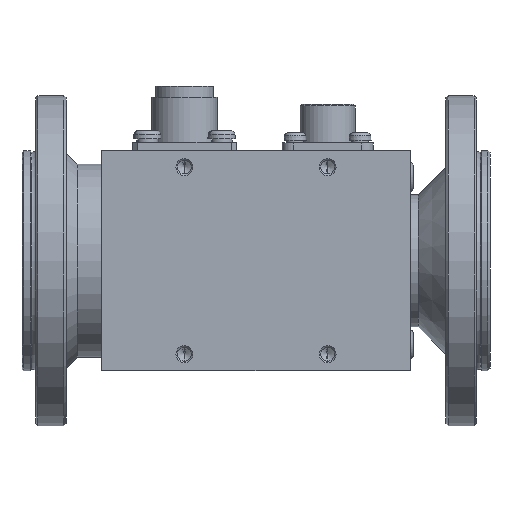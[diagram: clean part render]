
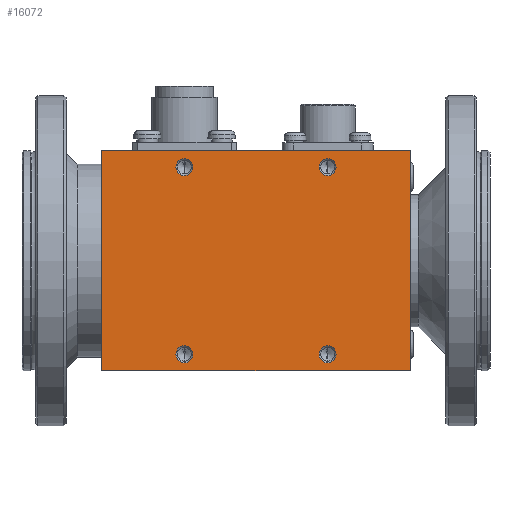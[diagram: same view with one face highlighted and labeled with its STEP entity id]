
A CAD part, front view. The second image highlights one B-rep face of the part: STEP entity #16072.
In plain terms, the highlighted planar face has unit normal (0, -1, 0).
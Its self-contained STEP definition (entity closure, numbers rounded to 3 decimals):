
#601 = LINE ( 'NONE', #15178, #8725 ) ;
#655 = ORIENTED_EDGE ( 'NONE', *, *, #14758, .F. ) ;
#844 = EDGE_CURVE ( 'NONE', #34153, #3512, #22238, .T. ) ;
#921 = AXIS2_PLACEMENT_3D ( 'NONE', #20340, #44366, #23803 ) ;
#938 = LINE ( 'NONE', #12615, #36490 ) ;
#1997 = CARTESIAN_POINT ( 'NONE',  ( 13., 0., 17. ) ) ;
#3176 = EDGE_LOOP ( 'NONE', ( #30336, #43898 ) ) ;
#3512 = VERTEX_POINT ( 'NONE', #12571 ) ;
#4871 = EDGE_CURVE ( 'NONE', #3512, #34153, #33035, .T. ) ;
#4923 = ORIENTED_EDGE ( 'NONE', *, *, #9237, .T. ) ;
#5168 = CIRCLE ( 'NONE', #30619, 1.55 ) ;
#5398 = ORIENTED_EDGE ( 'NONE', *, *, #42546, .F. ) ;
#5445 = DIRECTION ( 'NONE',  ( 0., 0., -1. ) ) ;
#5629 = ORIENTED_EDGE ( 'NONE', *, *, #4871, .F. ) ;
#5778 = CARTESIAN_POINT ( 'NONE',  ( 13., 0., -17. ) ) ;
#6085 = CARTESIAN_POINT ( 'NONE',  ( -13., 0., 18.55 ) ) ;
#6510 = ORIENTED_EDGE ( 'NONE', *, *, #24881, .F. ) ;
#6564 = FACE_BOUND ( 'NONE', #8748, .T. ) ;
#6855 = VERTEX_POINT ( 'NONE', #21395 ) ;
#7112 = CARTESIAN_POINT ( 'NONE',  ( -13., 0., -15.45 ) ) ;
#7638 = EDGE_LOOP ( 'NONE', ( #28433, #655 ) ) ;
#8170 = AXIS2_PLACEMENT_3D ( 'NONE', #29903, #15274, #33944 ) ;
#8705 = CIRCLE ( 'NONE', #15643, 1.55 ) ;
#8725 = VECTOR ( 'NONE', #18638, 1000. ) ;
#8748 = EDGE_LOOP ( 'NONE', ( #17858, #5398 ) ) ;
#8839 = EDGE_CURVE ( 'NONE', #43861, #35003, #5168, .T. ) ;
#9006 = VERTEX_POINT ( 'NONE', #37775 ) ;
#9237 = EDGE_CURVE ( 'NONE', #34719, #41697, #39513, .T. ) ;
#9260 = DIRECTION ( 'NONE',  ( 0., 0., -1. ) ) ;
#9503 = ORIENTED_EDGE ( 'NONE', *, *, #26809, .F. ) ;
#10016 = DIRECTION ( 'NONE',  ( -1., 0., 0. ) ) ;
#10097 = CARTESIAN_POINT ( 'NONE',  ( 28., 0., -20. ) ) ;
#10257 = DIRECTION ( 'NONE',  ( 0., -1., 0. ) ) ;
#11763 = CARTESIAN_POINT ( 'NONE',  ( -28., 0., 20. ) ) ;
#12571 = CARTESIAN_POINT ( 'NONE',  ( -13., 0., 15.45 ) ) ;
#12615 = CARTESIAN_POINT ( 'NONE',  ( -28., 0., 20. ) ) ;
#12894 = DIRECTION ( 'NONE',  ( 0., -1., 0. ) ) ;
#13191 = VECTOR ( 'NONE', #18531, 1000. ) ;
#13552 = CARTESIAN_POINT ( 'NONE',  ( 13., 0., -15.45 ) ) ;
#14758 = EDGE_CURVE ( 'NONE', #35819, #6855, #19308, .T. ) ;
#15086 = CARTESIAN_POINT ( 'NONE',  ( 28., 0., 20. ) ) ;
#15178 = CARTESIAN_POINT ( 'NONE',  ( -28., 0., 20. ) ) ;
#15274 = DIRECTION ( 'NONE',  ( 0., -1., 0. ) ) ;
#15287 = DIRECTION ( 'NONE',  ( 0., -1., 0. ) ) ;
#15521 = VERTEX_POINT ( 'NONE', #11763 ) ;
#15643 = AXIS2_PLACEMENT_3D ( 'NONE', #30887, #10257, #34314 ) ;
#15764 = FACE_BOUND ( 'NONE', #38961, .T. ) ;
#15770 = CARTESIAN_POINT ( 'NONE',  ( 0., 0., 0. ) ) ;
#16072 = ADVANCED_FACE ( 'NONE', ( #15764, #43176, #6564, #24933, #42086 ), #39627, .T. ) ;
#17858 = ORIENTED_EDGE ( 'NONE', *, *, #41278, .F. ) ;
#18531 = DIRECTION ( 'NONE',  ( 0., 0., 1. ) ) ;
#18638 = DIRECTION ( 'NONE',  ( 1., 0., 0. ) ) ;
#19226 = DIRECTION ( 'NONE',  ( 0., 0., -1. ) ) ;
#19308 = CIRCLE ( 'NONE', #36247, 1.55 ) ;
#20340 = CARTESIAN_POINT ( 'NONE',  ( 13., 0., -17. ) ) ;
#20411 = CARTESIAN_POINT ( 'NONE',  ( -28., 0., -20. ) ) ;
#20936 = CARTESIAN_POINT ( 'NONE',  ( -13., 0., 17. ) ) ;
#21105 = EDGE_CURVE ( 'NONE', #6855, #35819, #37375, .T. ) ;
#21395 = CARTESIAN_POINT ( 'NONE',  ( -13., 0., -18.55 ) ) ;
#22238 = CIRCLE ( 'NONE', #8170, 1.55 ) ;
#23803 = DIRECTION ( 'NONE',  ( 0., 0., -1. ) ) ;
#24881 = EDGE_CURVE ( 'NONE', #15521, #41697, #601, .T. ) ;
#24933 = FACE_BOUND ( 'NONE', #3176, .T. ) ;
#26137 = DIRECTION ( 'NONE',  ( 0., -1., 0. ) ) ;
#26496 = DIRECTION ( 'NONE',  ( 0., 0., 1. ) ) ;
#26807 = LINE ( 'NONE', #20411, #43960 ) ;
#26809 = EDGE_CURVE ( 'NONE', #34719, #27151, #26807, .T. ) ;
#27151 = VERTEX_POINT ( 'NONE', #33015 ) ;
#28433 = ORIENTED_EDGE ( 'NONE', *, *, #21105, .F. ) ;
#28504 = AXIS2_PLACEMENT_3D ( 'NONE', #5778, #29934, #9260 ) ;
#29084 = CARTESIAN_POINT ( 'NONE',  ( 13., 0., 18.55 ) ) ;
#29903 = CARTESIAN_POINT ( 'NONE',  ( -13., 0., 17. ) ) ;
#29934 = DIRECTION ( 'NONE',  ( 0., -1., 0. ) ) ;
#30336 = ORIENTED_EDGE ( 'NONE', *, *, #8839, .F. ) ;
#30619 = AXIS2_PLACEMENT_3D ( 'NONE', #1997, #26137, #5445 ) ;
#30887 = CARTESIAN_POINT ( 'NONE',  ( 13., 0., 17. ) ) ;
#31356 = DIRECTION ( 'NONE',  ( 0., -1., 0. ) ) ;
#33015 = CARTESIAN_POINT ( 'NONE',  ( -28., 0., -20. ) ) ;
#33035 = CIRCLE ( 'NONE', #36423, 1.55 ) ;
#33147 = EDGE_CURVE ( 'NONE', #35003, #43861, #8705, .T. ) ;
#33483 = CARTESIAN_POINT ( 'NONE',  ( -13., 0., -17. ) ) ;
#33944 = DIRECTION ( 'NONE',  ( 0., 0., -1. ) ) ;
#34153 = VERTEX_POINT ( 'NONE', #6085 ) ;
#34314 = DIRECTION ( 'NONE',  ( 0., 0., -1. ) ) ;
#34719 = VERTEX_POINT ( 'NONE', #10097 ) ;
#35003 = VERTEX_POINT ( 'NONE', #29084 ) ;
#35141 = EDGE_CURVE ( 'NONE', #27151, #15521, #938, .T. ) ;
#35812 = AXIS2_PLACEMENT_3D ( 'NONE', #15770, #39786, #19226 ) ;
#35819 = VERTEX_POINT ( 'NONE', #7112 ) ;
#35869 = CARTESIAN_POINT ( 'NONE',  ( -13., 0., -17. ) ) ;
#36247 = AXIS2_PLACEMENT_3D ( 'NONE', #33483, #12894, #36936 ) ;
#36250 = VERTEX_POINT ( 'NONE', #13552 ) ;
#36409 = CIRCLE ( 'NONE', #28504, 1.55 ) ;
#36423 = AXIS2_PLACEMENT_3D ( 'NONE', #20936, #31356, #42976 ) ;
#36490 = VECTOR ( 'NONE', #26496, 1000. ) ;
#36936 = DIRECTION ( 'NONE',  ( 0., 0., -1. ) ) ;
#37193 = ORIENTED_EDGE ( 'NONE', *, *, #844, .F. ) ;
#37375 = CIRCLE ( 'NONE', #42052, 1.55 ) ;
#37753 = CARTESIAN_POINT ( 'NONE',  ( 28., 0., 20. ) ) ;
#37775 = CARTESIAN_POINT ( 'NONE',  ( 13., 0., -18.55 ) ) ;
#38888 = EDGE_LOOP ( 'NONE', ( #9503, #4923, #6510, #43869 ) ) ;
#38961 = EDGE_LOOP ( 'NONE', ( #5629, #37193 ) ) ;
#39302 = DIRECTION ( 'NONE',  ( 0., 0., -1. ) ) ;
#39513 = LINE ( 'NONE', #15086, #13191 ) ;
#39627 = PLANE ( 'NONE',  #35812 ) ;
#39786 = DIRECTION ( 'NONE',  ( 0., -1., 0. ) ) ;
#41278 = EDGE_CURVE ( 'NONE', #9006, #36250, #44197, .T. ) ;
#41697 = VERTEX_POINT ( 'NONE', #37753 ) ;
#42052 = AXIS2_PLACEMENT_3D ( 'NONE', #35869, #15287, #39302 ) ;
#42086 = FACE_OUTER_BOUND ( 'NONE', #38888, .T. ) ;
#42350 = CARTESIAN_POINT ( 'NONE',  ( 13., 0., 15.45 ) ) ;
#42546 = EDGE_CURVE ( 'NONE', #36250, #9006, #36409, .T. ) ;
#42976 = DIRECTION ( 'NONE',  ( 0., 0., -1. ) ) ;
#43176 = FACE_BOUND ( 'NONE', #7638, .T. ) ;
#43861 = VERTEX_POINT ( 'NONE', #42350 ) ;
#43869 = ORIENTED_EDGE ( 'NONE', *, *, #35141, .F. ) ;
#43898 = ORIENTED_EDGE ( 'NONE', *, *, #33147, .F. ) ;
#43960 = VECTOR ( 'NONE', #10016, 1000. ) ;
#44197 = CIRCLE ( 'NONE', #921, 1.55 ) ;
#44366 = DIRECTION ( 'NONE',  ( 0., -1., 0. ) ) ;
